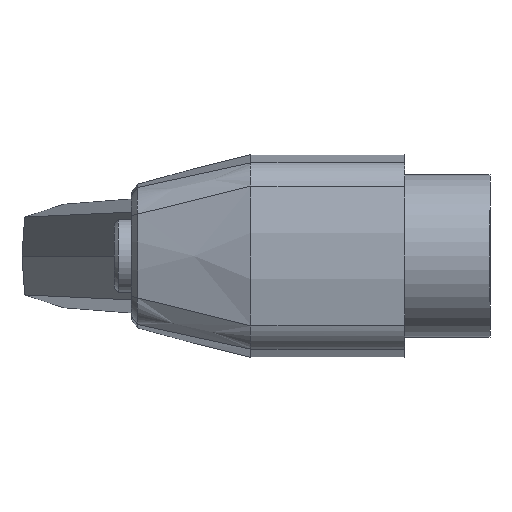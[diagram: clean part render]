
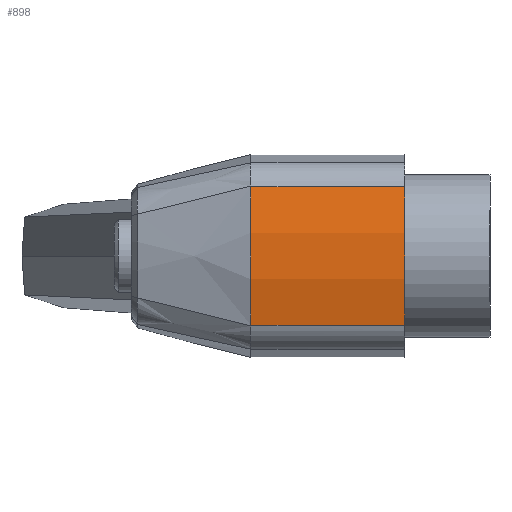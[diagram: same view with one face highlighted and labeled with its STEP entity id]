
A CAD part, left-side view. The second image highlights one B-rep face of the part: STEP entity #898.
In plain terms, the highlighted cylindrical face has radius 31.377 mm (diameter 62.754 mm), a partial arc.
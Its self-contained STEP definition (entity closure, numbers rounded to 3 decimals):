
#34 = DIRECTION ( 'NONE',  ( 0., 1., 0. ) ) ;
#53 = DIRECTION ( 'NONE',  ( 0., 0., -1. ) ) ;
#181 = DIRECTION ( 'NONE',  ( 0., 1., 0. ) ) ;
#232 = FACE_OUTER_BOUND ( 'NONE', #1893, .T. ) ;
#245 = VERTEX_POINT ( 'NONE', #1147 ) ;
#280 = CARTESIAN_POINT ( 'NONE',  ( -10.935, 18., 8.104 ) ) ;
#288 = EDGE_CURVE ( 'NONE', #853, #245, #464, .T. ) ;
#354 = DIRECTION ( 'NONE',  ( 0., 1., 0. ) ) ;
#362 = ORIENTED_EDGE ( 'NONE', *, *, #1034, .T. ) ;
#439 = CIRCLE ( 'NONE', #838, 31.377 ) ;
#464 = LINE ( 'NONE', #771, #1411 ) ;
#492 = CYLINDRICAL_SURFACE ( 'NONE', #969, 31.377 ) ;
#633 = ORIENTED_EDGE ( 'NONE', *, *, #1044, .T. ) ;
#641 = DIRECTION ( 'NONE',  ( 0., 0., 1. ) ) ;
#759 = CARTESIAN_POINT ( 'NONE',  ( -10.935, 0., 8.104 ) ) ;
#771 = CARTESIAN_POINT ( 'NONE',  ( -10.935, 18., -8.104 ) ) ;
#792 = DIRECTION ( 'NONE',  ( 0., -1., 0. ) ) ;
#798 = CARTESIAN_POINT ( 'NONE',  ( -10.935, 18., 8.104 ) ) ;
#838 = AXIS2_PLACEMENT_3D ( 'NONE', #1398, #34, #641 ) ;
#853 = VERTEX_POINT ( 'NONE', #955 ) ;
#898 = ADVANCED_FACE ( 'NONE', ( #232 ), #492, .T. ) ;
#909 = CARTESIAN_POINT ( 'NONE',  ( 19.377, 18., 0. ) ) ;
#934 = CARTESIAN_POINT ( 'NONE',  ( 19.377, 18., 0. ) ) ;
#955 = CARTESIAN_POINT ( 'NONE',  ( -10.935, 18., -8.104 ) ) ;
#969 = AXIS2_PLACEMENT_3D ( 'NONE', #934, #792, #1391 ) ;
#1034 = EDGE_CURVE ( 'NONE', #1563, #1261, #1090, .T. ) ;
#1044 = EDGE_CURVE ( 'NONE', #245, #1563, #439, .T. ) ;
#1062 = ORIENTED_EDGE ( 'NONE', *, *, #288, .T. ) ;
#1090 = LINE ( 'NONE', #798, #1877 ) ;
#1122 = CIRCLE ( 'NONE', #1725, 31.377 ) ;
#1147 = CARTESIAN_POINT ( 'NONE',  ( -10.935, 0., -8.104 ) ) ;
#1207 = DIRECTION ( 'NONE',  ( 0., -1., 0. ) ) ;
#1253 = ORIENTED_EDGE ( 'NONE', *, *, #1399, .F. ) ;
#1261 = VERTEX_POINT ( 'NONE', #280 ) ;
#1391 = DIRECTION ( 'NONE',  ( 0., 0., -1. ) ) ;
#1398 = CARTESIAN_POINT ( 'NONE',  ( 19.377, 0., 0. ) ) ;
#1399 = EDGE_CURVE ( 'NONE', #853, #1261, #1122, .T. ) ;
#1411 = VECTOR ( 'NONE', #1207, 1000. ) ;
#1563 = VERTEX_POINT ( 'NONE', #759 ) ;
#1725 = AXIS2_PLACEMENT_3D ( 'NONE', #909, #354, #53 ) ;
#1877 = VECTOR ( 'NONE', #181, 1000. ) ;
#1893 = EDGE_LOOP ( 'NONE', ( #1253, #1062, #633, #362 ) ) ;
